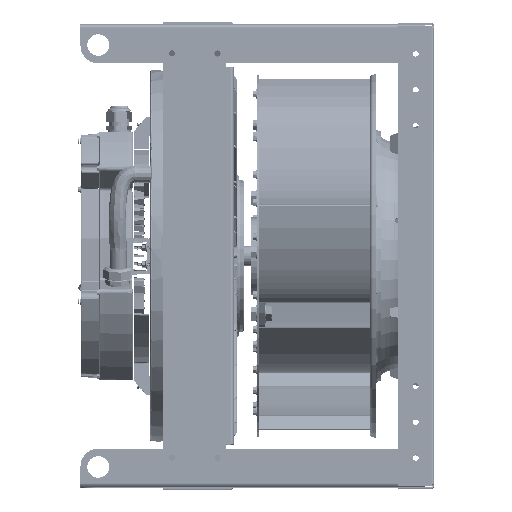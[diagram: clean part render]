
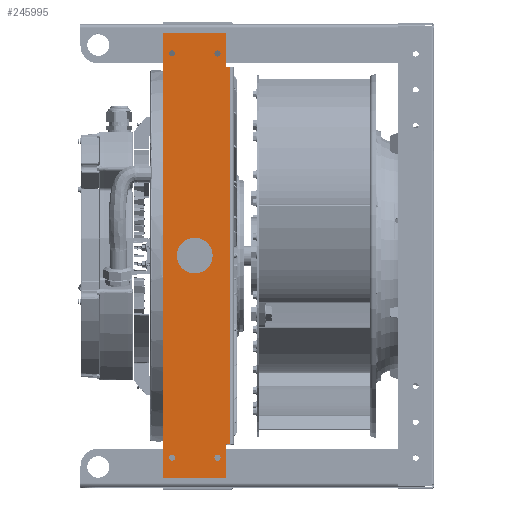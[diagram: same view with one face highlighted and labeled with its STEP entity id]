
A CAD part, top view. The second image highlights one B-rep face of the part: STEP entity #245995.
In plain terms, the highlighted planar face has unit normal (0, 0, 1).
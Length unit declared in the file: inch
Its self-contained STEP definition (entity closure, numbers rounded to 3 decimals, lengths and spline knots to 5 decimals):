
#7394 = CARTESIAN_POINT ( 'NONE',  ( 0., 0., 0.135 ) ) ;
#9254 = EDGE_LOOP ( 'NONE', ( #156666 ) ) ;
#11464 = DIRECTION ( 'NONE',  ( 0., 0., 1. ) ) ;
#12371 = EDGE_LOOP ( 'NONE', ( #65961 ) ) ;
#14206 = ORIENTED_EDGE ( 'NONE', *, *, #76555, .T. ) ;
#14744 = ORIENTED_EDGE ( 'NONE', *, *, #275496, .F. ) ;
#21393 = VERTEX_POINT ( 'NONE', #59765 ) ;
#25912 = DIRECTION ( 'NONE',  ( 1., 0., 0. ) ) ;
#27720 = VECTOR ( 'NONE', #169348, 39.37008 ) ;
#29127 = VECTOR ( 'NONE', #275700, 39.37008 ) ;
#29398 = ORIENTED_EDGE ( 'NONE', *, *, #255828, .T. ) ;
#29670 = AXIS2_PLACEMENT_3D ( 'NONE', #264295, #154300, #25912 ) ;
#36557 = AXIS2_PLACEMENT_3D ( 'NONE', #109568, #104037, #132070 ) ;
#42932 = CARTESIAN_POINT ( 'NONE',  ( 10.555, 1.77, 0.135 ) ) ;
#46352 = CARTESIAN_POINT ( 'NONE',  ( -11.133, 1.27, 0.135 ) ) ;
#48344 = DIRECTION ( 'NONE',  ( -1., 0., 0. ) ) ;
#53829 = ORIENTED_EDGE ( 'NONE', *, *, #106222, .T. ) ;
#55215 = EDGE_CURVE ( 'NONE', #120121, #21393, #184278, .T. ) ;
#59352 = VECTOR ( 'NONE', #71225, 39.37008 ) ;
#59765 = CARTESIAN_POINT ( 'NONE',  ( 12.465, -1.77, 0.135 ) ) ;
#62269 = VERTEX_POINT ( 'NONE', #251715 ) ;
#62657 = VECTOR ( 'NONE', #99744, 39.37008 ) ;
#64471 = CARTESIAN_POINT ( 'NONE',  ( 11.477, -1.27, 0.135 ) ) ;
#64524 = CARTESIAN_POINT ( 'NONE',  ( -11.477, -1.27, 0.135 ) ) ;
#65961 = ORIENTED_EDGE ( 'NONE', *, *, #91643, .F. ) ;
#67448 = CIRCLE ( 'NONE', #220521, 0.172 ) ;
#69821 = LINE ( 'NONE', #177038, #59352 ) ;
#71225 = DIRECTION ( 'NONE',  ( 0., -1., 0. ) ) ;
#71778 = AXIS2_PLACEMENT_3D ( 'NONE', #237503, #85168, #171235 ) ;
#76048 = VECTOR ( 'NONE', #169200, 39.37008 ) ;
#76555 = EDGE_CURVE ( 'NONE', #165402, #62269, #69821, .T. ) ;
#83224 = EDGE_LOOP ( 'NONE', ( #85378 ) ) ;
#84327 = VECTOR ( 'NONE', #103996, 39.37008 ) ;
#85168 = DIRECTION ( 'NONE',  ( 0., 0., 1. ) ) ;
#85378 = ORIENTED_EDGE ( 'NONE', *, *, #216005, .F. ) ;
#87606 = CARTESIAN_POINT ( 'NONE',  ( -12.465, -1.77, 0.135 ) ) ;
#91643 = EDGE_CURVE ( 'NONE', #92908, #92908, #224849, .T. ) ;
#91731 = ORIENTED_EDGE ( 'NONE', *, *, #175193, .F. ) ;
#92908 = VERTEX_POINT ( 'NONE', #245243 ) ;
#99744 = DIRECTION ( 'NONE',  ( 0., -1., 0. ) ) ;
#101037 = CARTESIAN_POINT ( 'NONE',  ( -12.465, -1.77, 0.135 ) ) ;
#101521 = LINE ( 'NONE', #188985, #76048 ) ;
#101671 = LINE ( 'NONE', #211711, #27720 ) ;
#103996 = DIRECTION ( 'NONE',  ( -1., 0., 0. ) ) ;
#104037 = DIRECTION ( 'NONE',  ( 0., 0., 1. ) ) ;
#104762 = VERTEX_POINT ( 'NONE', #262084 ) ;
#106222 = EDGE_CURVE ( 'NONE', #191004, #120121, #144872, .T. ) ;
#107442 = EDGE_CURVE ( 'NONE', #256457, #256457, #67448, .T. ) ;
#109568 = CARTESIAN_POINT ( 'NONE',  ( 11.305, -1.27, 0.135 ) ) ;
#110916 = VECTOR ( 'NONE', #147559, 39.37008 ) ;
#111842 = DIRECTION ( 'NONE',  ( 0., 0., -1. ) ) ;
#112667 = DIRECTION ( 'NONE',  ( -1., 0., 0. ) ) ;
#114524 = CARTESIAN_POINT ( 'NONE',  ( -11.305, 1.27, 0.135 ) ) ;
#116675 = ORIENTED_EDGE ( 'NONE', *, *, #148380, .F. ) ;
#117678 = CIRCLE ( 'NONE', #36557, 0.172 ) ;
#120121 = VERTEX_POINT ( 'NONE', #87606 ) ;
#128958 = CARTESIAN_POINT ( 'NONE',  ( 1., 0., 0.135 ) ) ;
#132070 = DIRECTION ( 'NONE',  ( 1., 0., 0. ) ) ;
#137115 = FACE_BOUND ( 'NONE', #12371, .T. ) ;
#141013 = CARTESIAN_POINT ( 'NONE',  ( -10.555, 1.9775, 0.135 ) ) ;
#144872 = LINE ( 'NONE', #206983, #62657 ) ;
#147559 = DIRECTION ( 'NONE',  ( 1., 0., 0. ) ) ;
#147601 = EDGE_LOOP ( 'NONE', ( #116675 ) ) ;
#148380 = EDGE_CURVE ( 'NONE', #242399, #242399, #261358, .T. ) ;
#154300 = DIRECTION ( 'NONE',  ( 0., 0., 1. ) ) ;
#155527 = EDGE_CURVE ( 'NONE', #62269, #191004, #101671, .T. ) ;
#156666 = ORIENTED_EDGE ( 'NONE', *, *, #107442, .F. ) ;
#165402 = VERTEX_POINT ( 'NONE', #141013 ) ;
#168851 = CARTESIAN_POINT ( 'NONE',  ( -12.465, 1.77, 0.135 ) ) ;
#169200 = DIRECTION ( 'NONE',  ( 0., -1., 0. ) ) ;
#169348 = DIRECTION ( 'NONE',  ( -1., 0., 0. ) ) ;
#171235 = DIRECTION ( 'NONE',  ( -1., 0., 0. ) ) ;
#172754 = AXIS2_PLACEMENT_3D ( 'NONE', #7394, #111842, #48344 ) ;
#173919 = FACE_BOUND ( 'NONE', #147601, .T. ) ;
#175193 = EDGE_CURVE ( 'NONE', #215677, #214935, #101521, .T. ) ;
#175451 = ORIENTED_EDGE ( 'NONE', *, *, #155527, .T. ) ;
#177038 = CARTESIAN_POINT ( 'NONE',  ( -10.555, 1.9775, 0.135 ) ) ;
#178890 = CARTESIAN_POINT ( 'NONE',  ( -11.305, -1.27, 0.135 ) ) ;
#180275 = DIRECTION ( 'NONE',  ( 0., 0., 1. ) ) ;
#184100 = CARTESIAN_POINT ( 'NONE',  ( 10.555, 1.9775, 0.135 ) ) ;
#184278 = LINE ( 'NONE', #101037, #110916 ) ;
#188985 = CARTESIAN_POINT ( 'NONE',  ( 10.555, 1.9775, 0.135 ) ) ;
#189624 = CARTESIAN_POINT ( 'NONE',  ( 12.465, -1.77, 0.135 ) ) ;
#191004 = VERTEX_POINT ( 'NONE', #217564 ) ;
#200508 = ORIENTED_EDGE ( 'NONE', *, *, #261777, .T. ) ;
#204883 = DIRECTION ( 'NONE',  ( -1., 0., 0. ) ) ;
#206623 = LINE ( 'NONE', #189624, #29127 ) ;
#206983 = CARTESIAN_POINT ( 'NONE',  ( -12.465, -1.77, 0.135 ) ) ;
#207146 = ORIENTED_EDGE ( 'NONE', *, *, #55215, .T. ) ;
#207400 = AXIS2_PLACEMENT_3D ( 'NONE', #114524, #11464, #225916 ) ;
#211711 = CARTESIAN_POINT ( 'NONE',  ( -12.465, 1.77, 0.135 ) ) ;
#214935 = VERTEX_POINT ( 'NONE', #42932 ) ;
#215677 = VERTEX_POINT ( 'NONE', #184100 ) ;
#216005 = EDGE_CURVE ( 'NONE', #258744, #258744, #268511, .T. ) ;
#217564 = CARTESIAN_POINT ( 'NONE',  ( -12.465, 1.77, 0.135 ) ) ;
#217674 = FACE_OUTER_BOUND ( 'NONE', #273933, .T. ) ;
#220521 = AXIS2_PLACEMENT_3D ( 'NONE', #178890, #180275, #112667 ) ;
#223207 = FACE_BOUND ( 'NONE', #9254, .T. ) ;
#224849 = CIRCLE ( 'NONE', #71778, 0.172 ) ;
#225916 = DIRECTION ( 'NONE',  ( 1., 0., 0. ) ) ;
#229588 = LINE ( 'NONE', #168851, #84327 ) ;
#237503 = CARTESIAN_POINT ( 'NONE',  ( 11.305, 1.27, 0.135 ) ) ;
#240201 = FACE_BOUND ( 'NONE', #266633, .T. ) ;
#241594 = PLANE ( 'NONE',  #172754 ) ;
#242399 = VERTEX_POINT ( 'NONE', #46352 ) ;
#245243 = CARTESIAN_POINT ( 'NONE',  ( 11.133, 1.27, 0.135 ) ) ;
#245995 = ADVANCED_FACE ( 'NONE', ( #259992, #217674, #223207, #173919, #240201, #137115 ), #241594, .F. ) ;
#248625 = LINE ( 'NONE', #268374, #250080 ) ;
#249717 = EDGE_CURVE ( 'NONE', #21393, #104762, #206623, .T. ) ;
#250080 = VECTOR ( 'NONE', #204883, 39.37008 ) ;
#251715 = CARTESIAN_POINT ( 'NONE',  ( -10.555, 1.77, 0.135 ) ) ;
#255828 = EDGE_CURVE ( 'NONE', #215677, #165402, #248625, .T. ) ;
#256457 = VERTEX_POINT ( 'NONE', #64524 ) ;
#257769 = VERTEX_POINT ( 'NONE', #64471 ) ;
#258744 = VERTEX_POINT ( 'NONE', #128958 ) ;
#259992 = FACE_BOUND ( 'NONE', #83224, .T. ) ;
#261358 = CIRCLE ( 'NONE', #207400, 0.172 ) ;
#261777 = EDGE_CURVE ( 'NONE', #104762, #214935, #229588, .T. ) ;
#262084 = CARTESIAN_POINT ( 'NONE',  ( 12.465, 1.77, 0.135 ) ) ;
#264295 = CARTESIAN_POINT ( 'NONE',  ( 0., 0., 0.135 ) ) ;
#266633 = EDGE_LOOP ( 'NONE', ( #14744 ) ) ;
#268374 = CARTESIAN_POINT ( 'NONE',  ( 10.555, 1.9775, 0.135 ) ) ;
#268511 = CIRCLE ( 'NONE', #29670, 1. ) ;
#273933 = EDGE_LOOP ( 'NONE', ( #53829, #207146, #278097, #200508, #91731, #29398, #14206, #175451 ) ) ;
#275496 = EDGE_CURVE ( 'NONE', #257769, #257769, #117678, .T. ) ;
#275700 = DIRECTION ( 'NONE',  ( 0., 1., 0. ) ) ;
#278097 = ORIENTED_EDGE ( 'NONE', *, *, #249717, .T. ) ;
